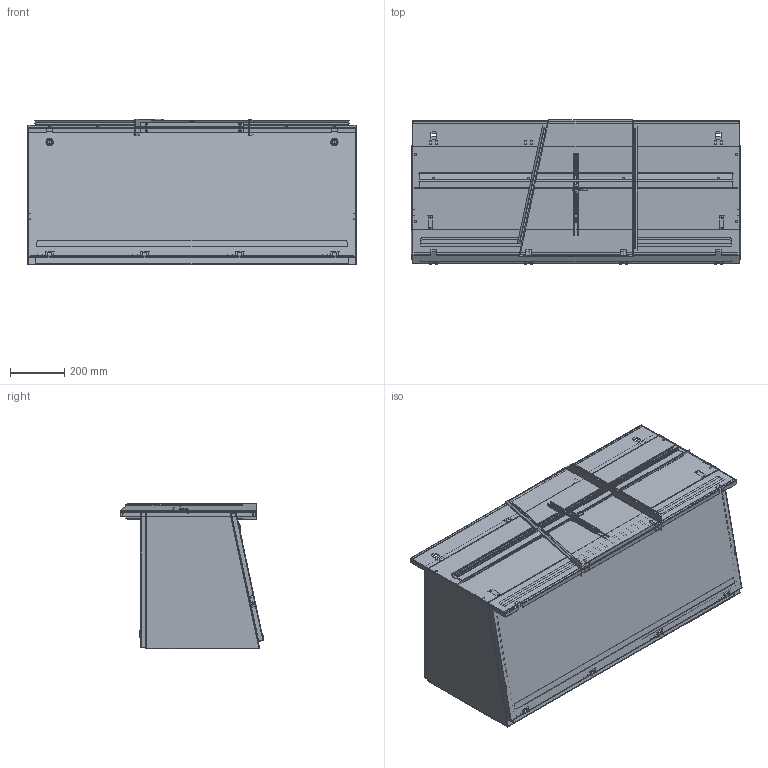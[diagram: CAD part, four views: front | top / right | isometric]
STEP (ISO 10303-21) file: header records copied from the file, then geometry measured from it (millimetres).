
FILE_DESCRIPTION( ( 'Unknown' ), '1' );
FILE_NAME( 'Q:/2000 SERIES/TURRET UNITS/WEB DRAWINGS/STEP/2CST204836.stp', 'Unknown', ( 'Unknown' ), ( 'Unknown' ), 'XStep 1.0', 'Unknown', ' ' );
FILE_SCHEMA( ( 'CONFIG_CONTROL_DESIGN' ) );
Length unit declared in the file: millimetre
Products named in the file (48): Assem1; Assem2; Assem3; Assem4; Assem5; Assem6; Assem7; Assem8; Assem9; Assem10; Assem11; Assem12; 1; 2; 3; 4; 5; 6; 7; 8; 9; 10; 11; 12; 13; 14; 15; 16; 17; 18; 19; 20; 21; 22; 23; 24; 25; 26; 27; 28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
Bounding box: 1219.2 x 533.07 x 538.94 mm (x, y, z)
Volume: 16034184.8 mm3; surface area: 17647481 mm2
Topology: 182 solids, 182 shells, 4059 faces, 9875 edges, 6324 vertices
Faces by surface type: plane 2653, cylinder 1102, bspline 232, cone 41, torus 21, sphere 10
Full cylindrical faces by diameter (mm): 3.175 x20, 4.763 x23, 4.826 x6, 5 x16, 5.537 x10, 5.969 x10, 6 x6, 6.096 x10, 6.299 x5, 6.35 x60, 7.137 x22, 7.925 x5, 7.938 x40, 8.331 x5, 9.804 x5, 9.83 x12, 9.931 x9, 10.312 x5, 11.1 x5, 12.7 x22, 12.751 x5, 13.335 x6, 15.875 x6, 16.002 x6, 19.5 x6, 19.939 x6, 25.4 x6
Entity records: 31668 total; most frequent: CARTESIAN_POINT 7721, DIRECTION 4408, ORIENTED_EDGE 4392, EDGE_CURVE 2196, LINE 1536, VECTOR 1536, VERTEX_POINT 1437, AXIS2_PLACEMENT_3D 1436
